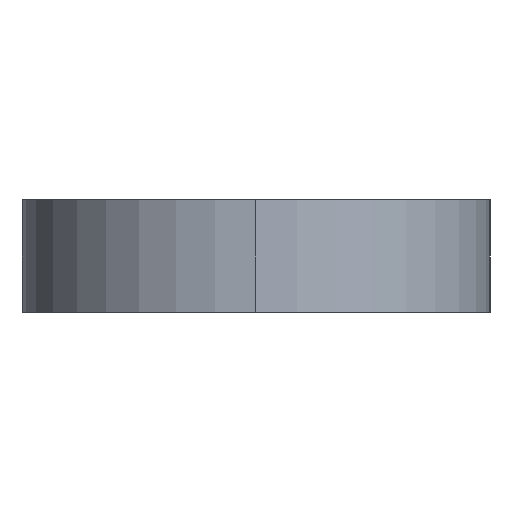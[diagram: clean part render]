
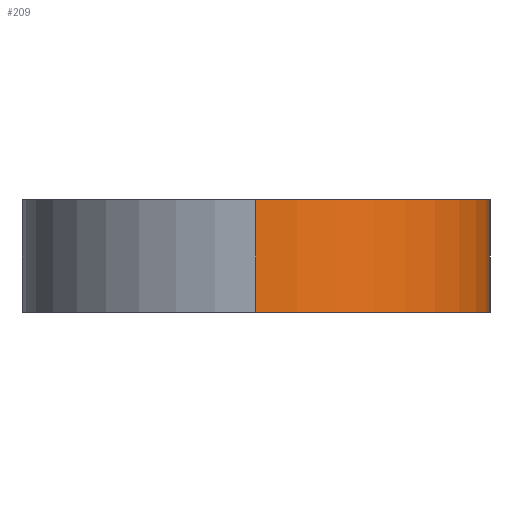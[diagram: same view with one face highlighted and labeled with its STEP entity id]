
A CAD part, left-side view. The second image highlights one B-rep face of the part: STEP entity #209.
In plain terms, the highlighted cylindrical face has radius 25 mm (diameter 50 mm), a partial arc.
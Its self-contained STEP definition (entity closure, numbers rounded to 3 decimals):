
#209 = ADVANCED_FACE ( 'NONE', ( #604 ), #568, .T. ) ;
#218 = ORIENTED_EDGE ( 'NONE', *, *, #273, .F. ) ;
#219 = EDGE_CURVE ( 'NONE', #266, #277, #632, .T. ) ;
#229 = EDGE_LOOP ( 'NONE', ( #218, #269, #270, #271 ) ) ;
#266 = VERTEX_POINT ( 'NONE', #701 ) ;
#267 = EDGE_CURVE ( 'NONE', #275, #268, #678, .T. ) ;
#268 = VERTEX_POINT ( 'NONE', #676 ) ;
#269 = ORIENTED_EDGE ( 'NONE', *, *, #267, .T. ) ;
#270 = ORIENTED_EDGE ( 'NONE', *, *, #276, .T. ) ;
#271 = ORIENTED_EDGE ( 'NONE', *, *, #219, .F. ) ;
#273 = EDGE_CURVE ( 'NONE', #275, #266, #677, .T. ) ;
#275 = VERTEX_POINT ( 'NONE', #738 ) ;
#276 = EDGE_CURVE ( 'NONE', #268, #277, #742, .T. ) ;
#277 = VERTEX_POINT ( 'NONE', #729 ) ;
#568 = CYLINDRICAL_SURFACE ( 'NONE', #603, 25. ) ;
#599 = DIRECTION ( 'NONE',  ( -1., 0., 0. ) ) ;
#600 = DIRECTION ( 'NONE',  ( 0., 0., -1. ) ) ;
#603 = AXIS2_PLACEMENT_3D ( 'NONE', #611, #600, #599 ) ;
#604 = FACE_OUTER_BOUND ( 'NONE', #229, .T. ) ;
#611 = CARTESIAN_POINT ( 'NONE',  ( 0., 0., 6. ) ) ;
#629 = DIRECTION ( 'NONE',  ( 0., 0., -1. ) ) ;
#630 = VECTOR ( 'NONE', #629, 1000. ) ;
#631 = CARTESIAN_POINT ( 'NONE',  ( 0., -25., 6. ) ) ;
#632 = LINE ( 'NONE', #631, #630 ) ;
#676 = CARTESIAN_POINT ( 'NONE',  ( -25., 0., -6. ) ) ;
#677 = CIRCLE ( 'NONE', #683, 25. ) ;
#678 = LINE ( 'NONE', #741, #740 ) ;
#683 = AXIS2_PLACEMENT_3D ( 'NONE', #735, #734, #733 ) ;
#701 = CARTESIAN_POINT ( 'NONE',  ( 0., -25., 6. ) ) ;
#725 = DIRECTION ( 'NONE',  ( 1., 0., 0. ) ) ;
#726 = DIRECTION ( 'NONE',  ( 0., 0., 1. ) ) ;
#727 = CARTESIAN_POINT ( 'NONE',  ( 0., 0., -6. ) ) ;
#729 = CARTESIAN_POINT ( 'NONE',  ( 0., -25., -6. ) ) ;
#732 = AXIS2_PLACEMENT_3D ( 'NONE', #727, #726, #725 ) ;
#733 = DIRECTION ( 'NONE',  ( 1., 0., 0. ) ) ;
#734 = DIRECTION ( 'NONE',  ( 0., 0., 1. ) ) ;
#735 = CARTESIAN_POINT ( 'NONE',  ( 0., 0., 6. ) ) ;
#738 = CARTESIAN_POINT ( 'NONE',  ( -25., 0., 6. ) ) ;
#739 = DIRECTION ( 'NONE',  ( 0., 0., -1. ) ) ;
#740 = VECTOR ( 'NONE', #739, 1000. ) ;
#741 = CARTESIAN_POINT ( 'NONE',  ( -25., 0., 6. ) ) ;
#742 = CIRCLE ( 'NONE', #732, 25. ) ;
